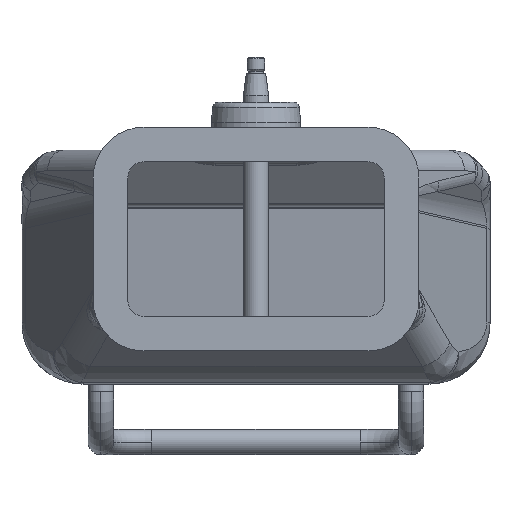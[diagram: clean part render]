
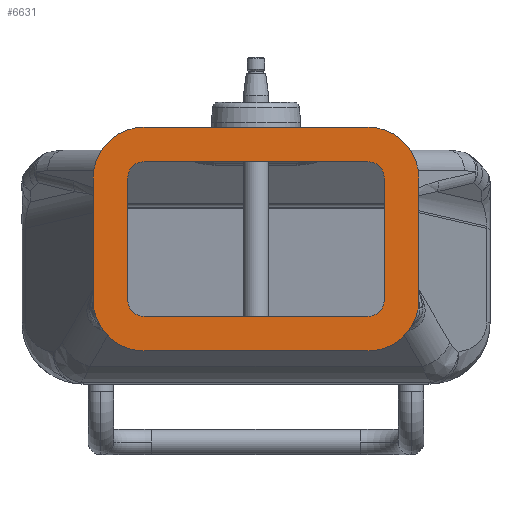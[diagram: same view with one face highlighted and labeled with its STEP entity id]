
A CAD part, front view. The second image highlights one B-rep face of the part: STEP entity #6631.
In plain terms, the highlighted planar face has unit normal (0, -1, 0).
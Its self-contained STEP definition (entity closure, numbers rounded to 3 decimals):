
#110 = EDGE_LOOP ( 'NONE', ( #14766, #15026, #1796, #4838, #13066, #2001, #9070, #7948 ) ) ;
#137 = CIRCLE ( 'NONE', #5956, 16. ) ;
#215 = CARTESIAN_POINT ( 'NONE',  ( 110., -800., -197.5 ) ) ;
#233 = DIRECTION ( 'NONE',  ( 0., -1., 0. ) ) ;
#365 = AXIS2_PLACEMENT_3D ( 'NONE', #4429, #12861, #5648 ) ;
#427 = CARTESIAN_POINT ( 'NONE',  ( -110., -800., -197.5 ) ) ;
#510 = CARTESIAN_POINT ( 'NONE',  ( -160., -800., -27.5 ) ) ;
#870 = ORIENTED_EDGE ( 'NONE', *, *, #10453, .F. ) ;
#1034 = ORIENTED_EDGE ( 'NONE', *, *, #7913, .F. ) ;
#1043 = ORIENTED_EDGE ( 'NONE', *, *, #6057, .F. ) ;
#1097 = CARTESIAN_POINT ( 'NONE',  ( -110., -800., -163.5 ) ) ;
#1282 = VERTEX_POINT ( 'NONE', #9674 ) ;
#1518 = CARTESIAN_POINT ( 'NONE',  ( 110., -800., -163.5 ) ) ;
#1534 = CARTESIAN_POINT ( 'NONE',  ( 110., -800., -27.5 ) ) ;
#1686 = CARTESIAN_POINT ( 'NONE',  ( -110., -800., -11.5 ) ) ;
#1796 = ORIENTED_EDGE ( 'NONE', *, *, #12986, .T. ) ;
#2001 = ORIENTED_EDGE ( 'NONE', *, *, #15467, .T. ) ;
#2220 = AXIS2_PLACEMENT_3D ( 'NONE', #12802, #12756, #12707 ) ;
#2223 = VERTEX_POINT ( 'NONE', #15594 ) ;
#2701 = VERTEX_POINT ( 'NONE', #7898 ) ;
#2728 = EDGE_CURVE ( 'NONE', #10224, #14161, #137, .T. ) ;
#2864 = DIRECTION ( 'NONE',  ( 0., 0., -1. ) ) ;
#3025 = DIRECTION ( 'NONE',  ( 0., 0., -1. ) ) ;
#3083 = DIRECTION ( 'NONE',  ( 0., -1., 0. ) ) ;
#3134 = CARTESIAN_POINT ( 'NONE',  ( -110., -800., -147.5 ) ) ;
#3219 = CARTESIAN_POINT ( 'NONE',  ( 160., -800., -147.5 ) ) ;
#3375 = CIRCLE ( 'NONE', #9821, 16. ) ;
#3453 = DIRECTION ( 'NONE',  ( 0., 0., -1. ) ) ;
#3454 = LINE ( 'NONE', #1686, #3842 ) ;
#3510 = DIRECTION ( 'NONE',  ( 0., -1., 0. ) ) ;
#3536 = CARTESIAN_POINT ( 'NONE',  ( 110., -800., -147.5 ) ) ;
#3619 = EDGE_CURVE ( 'NONE', #6493, #11755, #10298, .T. ) ;
#3682 = CARTESIAN_POINT ( 'NONE',  ( 126., -800., -27.5 ) ) ;
#3842 = VECTOR ( 'NONE', #10342, 1000. ) ;
#4262 = DIRECTION ( 'NONE',  ( -1., 0., 0. ) ) ;
#4373 = EDGE_CURVE ( 'NONE', #5380, #1282, #12676, .T. ) ;
#4409 = CIRCLE ( 'NONE', #7940, 50. ) ;
#4429 = CARTESIAN_POINT ( 'NONE',  ( -110., -800., -27.5 ) ) ;
#4609 = DIRECTION ( 'NONE',  ( 0., 0., -1. ) ) ;
#4612 = EDGE_CURVE ( 'NONE', #14161, #12217, #9150, .T. ) ;
#4838 = ORIENTED_EDGE ( 'NONE', *, *, #14280, .T. ) ;
#4869 = DIRECTION ( 'NONE',  ( 0., 0., 1. ) ) ;
#5062 = CARTESIAN_POINT ( 'NONE',  ( 110., -800., 22.5 ) ) ;
#5162 = CARTESIAN_POINT ( 'NONE',  ( -110., -800., -147.5 ) ) ;
#5380 = VERTEX_POINT ( 'NONE', #9729 ) ;
#5453 = ORIENTED_EDGE ( 'NONE', *, *, #4612, .F. ) ;
#5648 = DIRECTION ( 'NONE',  ( 0., 0., -1. ) ) ;
#5887 = VECTOR ( 'NONE', #6188, 1000. ) ;
#5956 = AXIS2_PLACEMENT_3D ( 'NONE', #5162, #7998, #4609 ) ;
#6057 = EDGE_CURVE ( 'NONE', #12217, #10795, #3375, .T. ) ;
#6060 = AXIS2_PLACEMENT_3D ( 'NONE', #1534, #10204, #2864 ) ;
#6104 = EDGE_LOOP ( 'NONE', ( #12525, #6389, #13770, #1034, #1043, #5453, #14947, #870 ) ) ;
#6171 = CARTESIAN_POINT ( 'NONE',  ( 110., -800., -27.5 ) ) ;
#6188 = DIRECTION ( 'NONE',  ( 1., 0., 0. ) ) ;
#6319 = CARTESIAN_POINT ( 'NONE',  ( -160., -800., -27.5 ) ) ;
#6389 = ORIENTED_EDGE ( 'NONE', *, *, #11832, .F. ) ;
#6419 = AXIS2_PLACEMENT_3D ( 'NONE', #10201, #9480, #9466 ) ;
#6478 = LINE ( 'NONE', #6319, #12516 ) ;
#6493 = VERTEX_POINT ( 'NONE', #11503 ) ;
#6631 = ADVANCED_FACE ( 'NONE', ( #8736, #8360 ), #9588, .T. ) ;
#6770 = EDGE_CURVE ( 'NONE', #11635, #2701, #7204, .T. ) ;
#6773 = CARTESIAN_POINT ( 'NONE',  ( -110., -800., -163.5 ) ) ;
#7037 = CARTESIAN_POINT ( 'NONE',  ( 160., -800., -27.5 ) ) ;
#7204 = LINE ( 'NONE', #5062, #13179 ) ;
#7408 = DIRECTION ( 'NONE',  ( 0., 0., -1. ) ) ;
#7613 = VERTEX_POINT ( 'NONE', #510 ) ;
#7781 = CARTESIAN_POINT ( 'NONE',  ( 110., -800., -147.5 ) ) ;
#7853 = CIRCLE ( 'NONE', #13985, 50. ) ;
#7898 = CARTESIAN_POINT ( 'NONE',  ( -110., -800., 22.5 ) ) ;
#7913 = EDGE_CURVE ( 'NONE', #10795, #9371, #11676, .T. ) ;
#7940 = AXIS2_PLACEMENT_3D ( 'NONE', #6171, #14524, #7408 ) ;
#7948 = ORIENTED_EDGE ( 'NONE', *, *, #12024, .T. ) ;
#7998 = DIRECTION ( 'NONE',  ( 0., -1., 0. ) ) ;
#8128 = CARTESIAN_POINT ( 'NONE',  ( 126., -800., -147.5 ) ) ;
#8330 = DIRECTION ( 'NONE',  ( 0., 0., 1. ) ) ;
#8360 = FACE_OUTER_BOUND ( 'NONE', #110, .T. ) ;
#8449 = LINE ( 'NONE', #3219, #11599 ) ;
#8451 = CARTESIAN_POINT ( 'NONE',  ( 110., -800., -11.5 ) ) ;
#8736 = FACE_BOUND ( 'NONE', #6104, .T. ) ;
#8798 = DIRECTION ( 'NONE',  ( 0., 0., -1. ) ) ;
#8829 = CARTESIAN_POINT ( 'NONE',  ( 126., -800., -27.5 ) ) ;
#8830 = VERTEX_POINT ( 'NONE', #215 ) ;
#9020 = DIRECTION ( 'NONE',  ( 0., 0., -1. ) ) ;
#9070 = ORIENTED_EDGE ( 'NONE', *, *, #13775, .T. ) ;
#9150 = LINE ( 'NONE', #6773, #5887 ) ;
#9371 = VERTEX_POINT ( 'NONE', #8829 ) ;
#9466 = DIRECTION ( 'NONE',  ( 0., 0., -1. ) ) ;
#9480 = DIRECTION ( 'NONE',  ( 0., -1., 0. ) ) ;
#9588 = PLANE ( 'NONE',  #6419 ) ;
#9674 = CARTESIAN_POINT ( 'NONE',  ( -110., -800., -197.5 ) ) ;
#9729 = CARTESIAN_POINT ( 'NONE',  ( -160., -800., -147.5 ) ) ;
#9821 = AXIS2_PLACEMENT_3D ( 'NONE', #3536, #3510, #3453 ) ;
#10137 = CARTESIAN_POINT ( 'NONE',  ( -126., -800., -27.5 ) ) ;
#10201 = CARTESIAN_POINT ( 'NONE',  ( -110., -800., -27.5 ) ) ;
#10204 = DIRECTION ( 'NONE',  ( 0., -1., 0. ) ) ;
#10224 = VERTEX_POINT ( 'NONE', #13952 ) ;
#10298 = CIRCLE ( 'NONE', #2220, 16. ) ;
#10342 = DIRECTION ( 'NONE',  ( -1., 0., 0. ) ) ;
#10371 = LINE ( 'NONE', #14518, #12745 ) ;
#10453 = EDGE_CURVE ( 'NONE', #11755, #10224, #10371, .T. ) ;
#10787 = DIRECTION ( 'NONE',  ( 0., 0., -1. ) ) ;
#10795 = VERTEX_POINT ( 'NONE', #8128 ) ;
#11127 = CARTESIAN_POINT ( 'NONE',  ( 110., -800., 22.5 ) ) ;
#11247 = EDGE_CURVE ( 'NONE', #12510, #11635, #4409, .T. ) ;
#11503 = CARTESIAN_POINT ( 'NONE',  ( -110., -800., -11.5 ) ) ;
#11599 = VECTOR ( 'NONE', #8330, 1000. ) ;
#11609 = CIRCLE ( 'NONE', #365, 50. ) ;
#11635 = VERTEX_POINT ( 'NONE', #11127 ) ;
#11676 = LINE ( 'NONE', #3682, #14435 ) ;
#11755 = VERTEX_POINT ( 'NONE', #10137 ) ;
#11832 = EDGE_CURVE ( 'NONE', #15845, #6493, #3454, .T. ) ;
#12024 = EDGE_CURVE ( 'NONE', #2223, #12510, #8449, .T. ) ;
#12217 = VERTEX_POINT ( 'NONE', #1518 ) ;
#12510 = VERTEX_POINT ( 'NONE', #7037 ) ;
#12516 = VECTOR ( 'NONE', #8798, 1000. ) ;
#12525 = ORIENTED_EDGE ( 'NONE', *, *, #3619, .F. ) ;
#12651 = VECTOR ( 'NONE', #15079, 1000. ) ;
#12676 = CIRCLE ( 'NONE', #15093, 50. ) ;
#12707 = DIRECTION ( 'NONE',  ( 0., 0., -1. ) ) ;
#12745 = VECTOR ( 'NONE', #10787, 1000. ) ;
#12756 = DIRECTION ( 'NONE',  ( 0., -1., 0. ) ) ;
#12802 = CARTESIAN_POINT ( 'NONE',  ( -110., -800., -27.5 ) ) ;
#12861 = DIRECTION ( 'NONE',  ( 0., -1., 0. ) ) ;
#12986 = EDGE_CURVE ( 'NONE', #2701, #7613, #11609, .T. ) ;
#13066 = ORIENTED_EDGE ( 'NONE', *, *, #4373, .T. ) ;
#13179 = VECTOR ( 'NONE', #4262, 1000. ) ;
#13306 = EDGE_CURVE ( 'NONE', #9371, #15845, #15688, .T. ) ;
#13770 = ORIENTED_EDGE ( 'NONE', *, *, #13306, .F. ) ;
#13775 = EDGE_CURVE ( 'NONE', #8830, #2223, #7853, .T. ) ;
#13952 = CARTESIAN_POINT ( 'NONE',  ( -126., -800., -147.5 ) ) ;
#13985 = AXIS2_PLACEMENT_3D ( 'NONE', #7781, #233, #9020 ) ;
#14161 = VERTEX_POINT ( 'NONE', #1097 ) ;
#14280 = EDGE_CURVE ( 'NONE', #7613, #5380, #6478, .T. ) ;
#14435 = VECTOR ( 'NONE', #4869, 1000. ) ;
#14518 = CARTESIAN_POINT ( 'NONE',  ( -126., -800., -27.5 ) ) ;
#14524 = DIRECTION ( 'NONE',  ( 0., -1., 0. ) ) ;
#14766 = ORIENTED_EDGE ( 'NONE', *, *, #11247, .T. ) ;
#14947 = ORIENTED_EDGE ( 'NONE', *, *, #2728, .F. ) ;
#15026 = ORIENTED_EDGE ( 'NONE', *, *, #6770, .T. ) ;
#15079 = DIRECTION ( 'NONE',  ( 1., 0., 0. ) ) ;
#15093 = AXIS2_PLACEMENT_3D ( 'NONE', #3134, #3083, #3025 ) ;
#15467 = EDGE_CURVE ( 'NONE', #1282, #8830, #15805, .T. ) ;
#15594 = CARTESIAN_POINT ( 'NONE',  ( 160., -800., -147.5 ) ) ;
#15688 = CIRCLE ( 'NONE', #6060, 16. ) ;
#15805 = LINE ( 'NONE', #427, #12651 ) ;
#15845 = VERTEX_POINT ( 'NONE', #8451 ) ;
